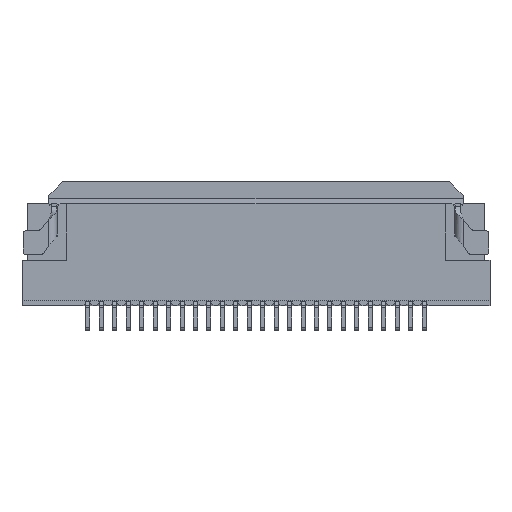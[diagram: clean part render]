
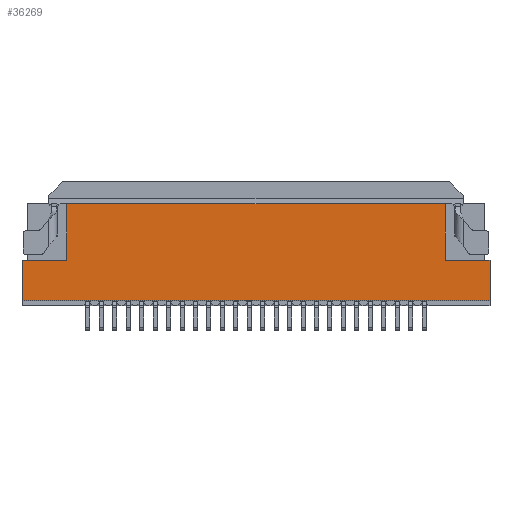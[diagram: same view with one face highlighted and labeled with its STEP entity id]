
A CAD part, front view. The second image highlights one B-rep face of the part: STEP entity #36269.
In plain terms, the highlighted planar face has unit normal (0, -1, 0).
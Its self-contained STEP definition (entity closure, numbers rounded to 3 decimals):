
#883=DIRECTION('',(-1.,0.,0.));
#884=VECTOR('',#883,14.07);
#885=CARTESIAN_POINT('',(15.285,-0.875,1.95));
#886=LINE('',#885,#884);
#955=DIRECTION('',(1.,0.,0.));
#956=VECTOR('',#955,17.4);
#957=CARTESIAN_POINT('',(-0.45,-0.875,-1.65));
#958=LINE('',#957,#956);
#1830=DIRECTION('',(1.,0.,0.));
#1831=VECTOR('',#1830,1.665);
#1832=CARTESIAN_POINT('',(-0.45,-0.875,-0.15));
#1833=LINE('',#1832,#1831);
#1846=DIRECTION('',(0.,0.,1.));
#1847=VECTOR('',#1846,2.1);
#1848=CARTESIAN_POINT('',(1.215,-0.875,-0.15));
#1849=LINE('',#1848,#1847);
#1858=DIRECTION('',(0.,0.,1.));
#1859=VECTOR('',#1858,1.5);
#1860=CARTESIAN_POINT('',(-0.45,-0.875,-1.65));
#1861=LINE('',#1860,#1859);
#2238=DIRECTION('',(0.,0.,1.));
#2239=VECTOR('',#2238,1.5);
#2240=CARTESIAN_POINT('',(16.95,-0.875,-1.65));
#2241=LINE('',#2240,#2239);
#2262=DIRECTION('',(-1.,0.,0.));
#2263=VECTOR('',#2262,1.665);
#2264=CARTESIAN_POINT('',(16.95,-0.875,-0.15));
#2265=LINE('',#2264,#2263);
#15159=DIRECTION('',(0.,0.,1.));
#15160=VECTOR('',#15159,2.1);
#15161=CARTESIAN_POINT('',(15.285,-0.875,-0.15));
#15162=LINE('',#15161,#15160);
#26259=CARTESIAN_POINT('',(15.285,-0.875,-0.15));
#26260=CARTESIAN_POINT('',(15.285,-0.875,1.95));
#26261=VERTEX_POINT('',#26259);
#26262=VERTEX_POINT('',#26260);
#26263=CARTESIAN_POINT('',(16.95,-0.875,-1.65));
#26264=CARTESIAN_POINT('',(16.95,-0.875,-0.15));
#26265=VERTEX_POINT('',#26263);
#26266=VERTEX_POINT('',#26264);
#30509=CARTESIAN_POINT('',(1.215,-0.875,-0.15));
#30510=CARTESIAN_POINT('',(1.215,-0.875,1.95));
#30511=VERTEX_POINT('',#30509);
#30512=VERTEX_POINT('',#30510);
#30513=CARTESIAN_POINT('',(-0.45,-0.875,-1.65));
#30514=CARTESIAN_POINT('',(-0.45,-0.875,-0.15));
#30515=VERTEX_POINT('',#30513);
#30516=VERTEX_POINT('',#30514);
#36247=CARTESIAN_POINT('',(0.,-0.875,0.15));
#36248=DIRECTION('',(0.,1.,0.));
#36249=DIRECTION('',(0.,0.,-1.));
#36250=AXIS2_PLACEMENT_3D('',#36247,#36248,#36249);
#36251=PLANE('',#36250);
#36253=ORIENTED_EDGE('',*,*,#36252,.F.);
#36255=ORIENTED_EDGE('',*,*,#36254,.T.);
#36257=ORIENTED_EDGE('',*,*,#36256,.T.);
#36259=ORIENTED_EDGE('',*,*,#36258,.T.);
#36260=ORIENTED_EDGE('',*,*,#36013,.F.);
#36262=ORIENTED_EDGE('',*,*,#36261,.F.);
#36264=ORIENTED_EDGE('',*,*,#36263,.F.);
#36266=ORIENTED_EDGE('',*,*,#36265,.F.);
#36267=EDGE_LOOP('',(#36253,#36255,#36257,#36259,#36260,#36262,#36264,#36266));
#36268=FACE_OUTER_BOUND('',#36267,.F.);
#36013=EDGE_CURVE('',#26262,#30512,#886,.T.);
#36252=EDGE_CURVE('',#30515,#26265,#958,.T.);
#36254=EDGE_CURVE('',#30515,#30516,#1861,.T.);
#36256=EDGE_CURVE('',#30516,#30511,#1833,.T.);
#36258=EDGE_CURVE('',#30511,#30512,#1849,.T.);
#36261=EDGE_CURVE('',#26261,#26262,#15162,.T.);
#36263=EDGE_CURVE('',#26266,#26261,#2265,.T.);
#36265=EDGE_CURVE('',#26265,#26266,#2241,.T.);
#36269=ADVANCED_FACE('',(#36268),#36251,.F.);
